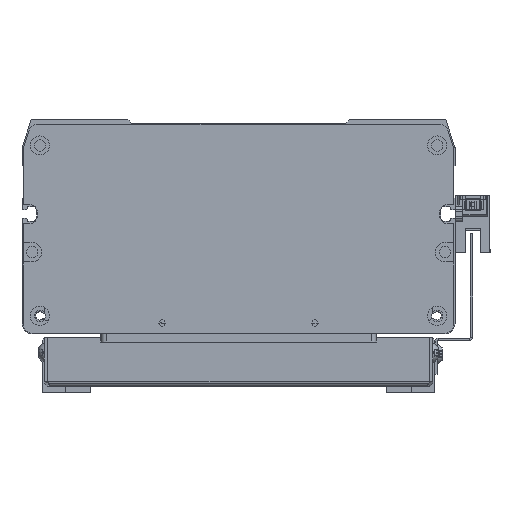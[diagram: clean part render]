
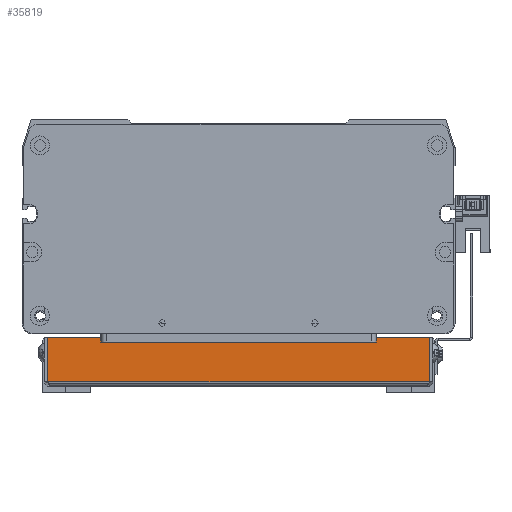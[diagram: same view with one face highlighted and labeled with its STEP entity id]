
A CAD part, front view. The second image highlights one B-rep face of the part: STEP entity #35819.
In plain terms, the highlighted planar face has unit normal (0, -1, 0) as drawn and (0, 0, -1) by its records, which use the part's own axes.
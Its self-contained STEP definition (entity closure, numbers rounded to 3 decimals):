
#17 = CARTESIAN_POINT ( 'NONE',  ( 143.776, 71.969, -50.568 ) ) ;
#6098 = CARTESIAN_POINT ( 'NONE',  ( -84.133, 71.969, -50.568 ) ) ;
#6830 = EDGE_CURVE ( 'NONE', #26322, #32624, #7418, .T. ) ;
#7418 = LINE ( 'NONE', #17, #40324 ) ;
#8857 = LINE ( 'NONE', #18292, #18515 ) ;
#9286 = AXIS2_PLACEMENT_3D ( 'NONE', #28913, #23511, #29051 ) ;
#9813 = ORIENTED_EDGE ( 'NONE', *, *, #14827, .T. ) ;
#12186 = DIRECTION ( 'NONE',  ( 0., -1., 0. ) ) ;
#12299 = ORIENTED_EDGE ( 'NONE', *, *, #28417, .F. ) ;
#12938 = FACE_OUTER_BOUND ( 'NONE', #17050, .T. ) ;
#14827 = EDGE_CURVE ( 'NONE', #26322, #39922, #23036, .T. ) ;
#15635 = DIRECTION ( 'NONE',  ( -1., 0., 0. ) ) ;
#15941 = PLANE ( 'NONE',  #9286 ) ;
#17050 = EDGE_LOOP ( 'NONE', ( #26252, #9813, #12299, #36657 ) ) ;
#18292 = CARTESIAN_POINT ( 'NONE',  ( -84.133, 71.969, -50.568 ) ) ;
#18515 = VECTOR ( 'NONE', #24774, 1000. ) ;
#18596 = CARTESIAN_POINT ( 'NONE',  ( 65.667, 71.969, -50.568 ) ) ;
#19954 = DIRECTION ( 'NONE',  ( 1., 0., 0. ) ) ;
#20018 = VECTOR ( 'NONE', #12186, 1000. ) ;
#22367 = CARTESIAN_POINT ( 'NONE',  ( 65.667, 71.969, -50.568 ) ) ;
#23036 = LINE ( 'NONE', #18596, #20018 ) ;
#23511 = DIRECTION ( 'NONE',  ( 0., 0., 1. ) ) ;
#24774 = DIRECTION ( 'NONE',  ( 0., -1., 0. ) ) ;
#26252 = ORIENTED_EDGE ( 'NONE', *, *, #6830, .F. ) ;
#26322 = VERTEX_POINT ( 'NONE', #22367 ) ;
#26859 = CARTESIAN_POINT ( 'NONE',  ( 65.667, 54.706, -50.568 ) ) ;
#27605 = VERTEX_POINT ( 'NONE', #32573 ) ;
#28417 = EDGE_CURVE ( 'NONE', #27605, #39922, #33013, .T. ) ;
#28913 = CARTESIAN_POINT ( 'NONE',  ( 143.776, 73.906, -50.568 ) ) ;
#29051 = DIRECTION ( 'NONE',  ( 0., -1., 0. ) ) ;
#29858 = EDGE_CURVE ( 'NONE', #32624, #27605, #8857, .T. ) ;
#32573 = CARTESIAN_POINT ( 'NONE',  ( -84.133, 54.706, -50.568 ) ) ;
#32624 = VERTEX_POINT ( 'NONE', #6098 ) ;
#33013 = LINE ( 'NONE', #39306, #39086 ) ;
#35819 = ADVANCED_FACE ( 'NONE', ( #12938 ), #15941, .F. ) ;
#36657 = ORIENTED_EDGE ( 'NONE', *, *, #29858, .F. ) ;
#39086 = VECTOR ( 'NONE', #19954, 1000. ) ;
#39306 = CARTESIAN_POINT ( 'NONE',  ( -84.233, 54.706, -50.568 ) ) ;
#39922 = VERTEX_POINT ( 'NONE', #26859 ) ;
#40324 = VECTOR ( 'NONE', #15635, 1000. ) ;
